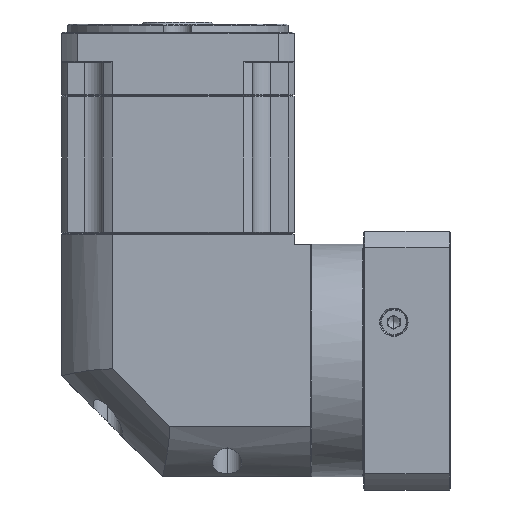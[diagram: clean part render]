
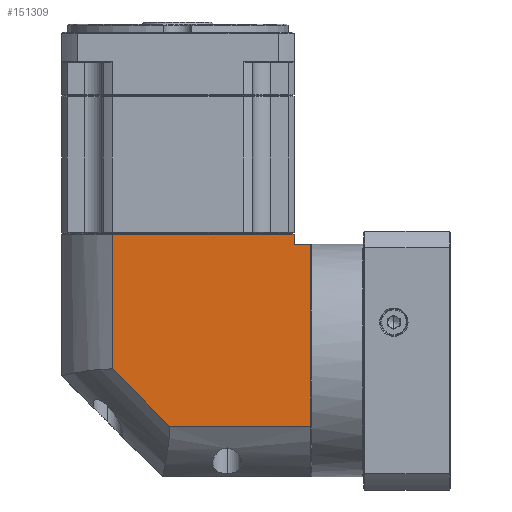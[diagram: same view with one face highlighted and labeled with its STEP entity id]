
A CAD part, left-side view. The second image highlights one B-rep face of the part: STEP entity #151309.
In plain terms, the highlighted planar face has unit normal (-1, 0, 0).
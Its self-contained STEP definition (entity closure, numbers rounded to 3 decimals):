
#1579 = AXIS2_PLACEMENT_3D ( 'NONE', #149710, #72070, #162730 ) ;
#3469 = EDGE_CURVE ( 'NONE', #40498, #125507, #121076, .T. ) ;
#3542 = ORIENTED_EDGE ( 'NONE', *, *, #3469, .T. ) ;
#4453 = LINE ( 'NONE', #19294, #103989 ) ;
#4923 = EDGE_CURVE ( 'NONE', #40498, #45414, #51492, .T. ) ;
#14986 = FACE_OUTER_BOUND ( 'NONE', #74995, .T. ) ;
#18347 = VERTEX_POINT ( 'NONE', #18502 ) ;
#18429 = ORIENTED_EDGE ( 'NONE', *, *, #136543, .F. ) ;
#18502 = CARTESIAN_POINT ( 'NONE',  ( -240.345, -13.382, 8.335 ) ) ;
#19294 = CARTESIAN_POINT ( 'NONE',  ( -240.345, -13.382, 8.335 ) ) ;
#25307 = CARTESIAN_POINT ( 'NONE',  ( -240.345, 14.956, 36.673 ) ) ;
#27426 = CARTESIAN_POINT ( 'NONE',  ( -240.345, -83.343, 98.235 ) ) ;
#32402 = DIRECTION ( 'NONE',  ( 0., 0.707, 0.707 ) ) ;
#36589 = ORIENTED_EDGE ( 'NONE', *, *, #143747, .F. ) ;
#37556 = CARTESIAN_POINT ( 'NONE',  ( -240.345, 14.956, 103.235 ) ) ;
#39914 = ORIENTED_EDGE ( 'NONE', *, *, #168431, .F. ) ;
#40498 = VERTEX_POINT ( 'NONE', #27426 ) ;
#41357 = VERTEX_POINT ( 'NONE', #25307 ) ;
#45414 = VERTEX_POINT ( 'NONE', #46810 ) ;
#46810 = CARTESIAN_POINT ( 'NONE',  ( -240.345, -83.343, 8.335 ) ) ;
#51492 = LINE ( 'NONE', #133086, #81984 ) ;
#52096 = VECTOR ( 'NONE', #87874, 1000. ) ;
#56188 = DIRECTION ( 'NONE',  ( 0., -1., 0. ) ) ;
#59487 = LINE ( 'NONE', #98805, #128431 ) ;
#65204 = LINE ( 'NONE', #133860, #134160 ) ;
#67056 = LINE ( 'NONE', #108546, #136055 ) ;
#67303 = LINE ( 'NONE', #89610, #136302 ) ;
#67885 = EDGE_CURVE ( 'NONE', #41357, #137460, #59487, .T. ) ;
#72070 = DIRECTION ( 'NONE',  ( 1., 0., 0. ) ) ;
#74850 = CARTESIAN_POINT ( 'NONE',  ( -240.345, -74.943, 98.235 ) ) ;
#74995 = EDGE_LOOP ( 'NONE', ( #144482, #36589, #18429, #145715, #3542, #119764, #39914 ) ) ;
#81984 = VECTOR ( 'NONE', #107644, 1000. ) ;
#87874 = DIRECTION ( 'NONE',  ( 0., 1., 0. ) ) ;
#89610 = CARTESIAN_POINT ( 'NONE',  ( -240.345, 40.057, 8.335 ) ) ;
#97636 = PLANE ( 'NONE',  #1579 ) ;
#98805 = CARTESIAN_POINT ( 'NONE',  ( -240.345, 14.956, 109.735 ) ) ;
#102052 = DIRECTION ( 'NONE',  ( 0., 1., 0. ) ) ;
#103989 = VECTOR ( 'NONE', #32402, 1000. ) ;
#105732 = CARTESIAN_POINT ( 'NONE',  ( -240.345, -74.943, 103.235 ) ) ;
#106104 = CARTESIAN_POINT ( 'NONE',  ( -240.345, -74.943, 98.235 ) ) ;
#107644 = DIRECTION ( 'NONE',  ( 0., 0., -1. ) ) ;
#108546 = CARTESIAN_POINT ( 'NONE',  ( -240.345, -74.943, -16.765 ) ) ;
#119764 = ORIENTED_EDGE ( 'NONE', *, *, #121547, .T. ) ;
#121076 = LINE ( 'NONE', #74850, #52096 ) ;
#121523 = DIRECTION ( 'NONE',  ( 0., 0., 1. ) ) ;
#121547 = EDGE_CURVE ( 'NONE', #125507, #160297, #67056, .T. ) ;
#125507 = VERTEX_POINT ( 'NONE', #106104 ) ;
#128431 = VECTOR ( 'NONE', #138937, 1000. ) ;
#133086 = CARTESIAN_POINT ( 'NONE',  ( -240.345, -83.343, 109.735 ) ) ;
#133860 = CARTESIAN_POINT ( 'NONE',  ( -240.345, 40.057, 103.235 ) ) ;
#134160 = VECTOR ( 'NONE', #56188, 1000. ) ;
#136055 = VECTOR ( 'NONE', #121523, 1000. ) ;
#136302 = VECTOR ( 'NONE', #102052, 1000. ) ;
#136543 = EDGE_CURVE ( 'NONE', #45414, #18347, #67303, .T. ) ;
#137460 = VERTEX_POINT ( 'NONE', #37556 ) ;
#138937 = DIRECTION ( 'NONE',  ( 0., 0., 1. ) ) ;
#143747 = EDGE_CURVE ( 'NONE', #18347, #41357, #4453, .T. ) ;
#144482 = ORIENTED_EDGE ( 'NONE', *, *, #67885, .F. ) ;
#145715 = ORIENTED_EDGE ( 'NONE', *, *, #4923, .F. ) ;
#149710 = CARTESIAN_POINT ( 'NONE',  ( -240.345, 40.057, 109.735 ) ) ;
#151309 = ADVANCED_FACE ( 'NONE', ( #14986 ), #97636, .F. ) ;
#160297 = VERTEX_POINT ( 'NONE', #105732 ) ;
#162730 = DIRECTION ( 'NONE',  ( 0., 1., 0. ) ) ;
#168431 = EDGE_CURVE ( 'NONE', #137460, #160297, #65204, .T. ) ;
